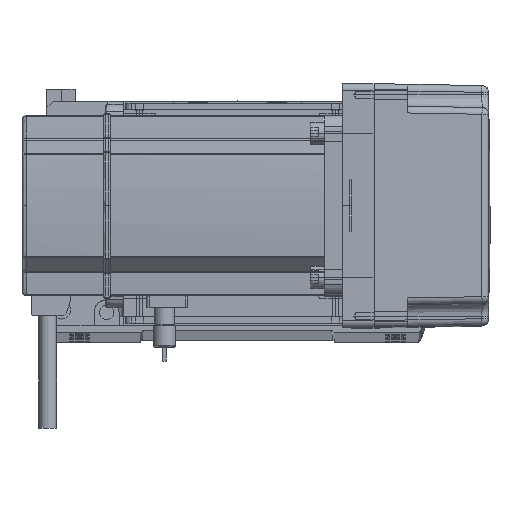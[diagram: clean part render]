
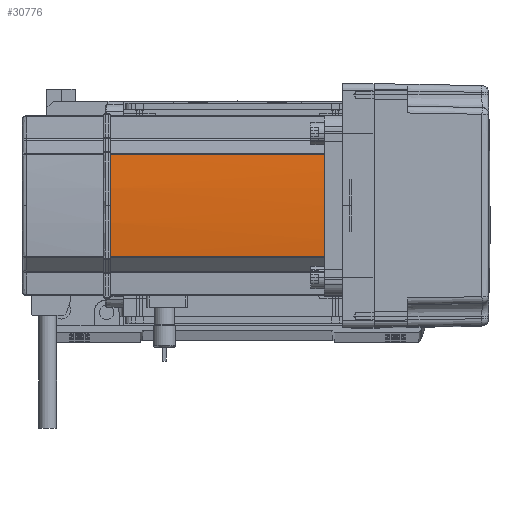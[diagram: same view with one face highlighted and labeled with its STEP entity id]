
A CAD part, top view. The second image highlights one B-rep face of the part: STEP entity #30776.
In plain terms, the highlighted cylindrical face has radius 270 mm (diameter 540 mm), a partial arc.
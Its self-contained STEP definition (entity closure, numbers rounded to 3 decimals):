
#972 = CIRCLE ( 'NONE', #32822, 270. ) ;
#1494 = ORIENTED_EDGE ( 'NONE', *, *, #14219, .T. ) ;
#2191 = LINE ( 'NONE', #57121, #59696 ) ;
#2561 = CARTESIAN_POINT ( 'NONE',  ( 230., 0., 134. ) ) ;
#5947 = ORIENTED_EDGE ( 'NONE', *, *, #63593, .T. ) ;
#6134 = DIRECTION ( 'NONE',  ( 1., 0., 0. ) ) ;
#6212 = DIRECTION ( 'NONE',  ( 0., 0., 1. ) ) ;
#12415 = DIRECTION ( 'NONE',  ( 0., 0., -1. ) ) ;
#13867 = CARTESIAN_POINT ( 'NONE',  ( 230., 0., 134. ) ) ;
#14219 = EDGE_CURVE ( 'NONE', #62748, #19654, #57485, .T. ) ;
#15255 = ORIENTED_EDGE ( 'NONE', *, *, #25344, .T. ) ;
#15613 = VERTEX_POINT ( 'NONE', #30137 ) ;
#18527 = DIRECTION ( 'NONE',  ( 0., 0., 1. ) ) ;
#19654 = VERTEX_POINT ( 'NONE', #44765 ) ;
#23441 = ORIENTED_EDGE ( 'NONE', *, *, #40996, .F. ) ;
#25344 = EDGE_CURVE ( 'NONE', #15613, #62748, #37601, .T. ) ;
#25448 = CYLINDRICAL_SURFACE ( 'NONE', #37854, 270. ) ;
#25825 = AXIS2_PLACEMENT_3D ( 'NONE', #13867, #29361, #63125 ) ;
#28134 = DIRECTION ( 'NONE',  ( 0., 0., -1. ) ) ;
#29361 = DIRECTION ( 'NONE',  ( 0., 0., -1. ) ) ;
#30137 = CARTESIAN_POINT ( 'NONE',  ( -39.042, -22.724, 134. ) ) ;
#30456 = AXIS2_PLACEMENT_3D ( 'NONE', #2561, #28134, #62329 ) ;
#30767 = CARTESIAN_POINT ( 'NONE',  ( 230., 0., 0. ) ) ;
#30776 = ADVANCED_FACE ( 'NONE', ( #54541 ), #25448, .T. ) ;
#32822 = AXIS2_PLACEMENT_3D ( 'NONE', #44787, #35402, #6134 ) ;
#35402 = DIRECTION ( 'NONE',  ( 0., 0., -1. ) ) ;
#36186 = VERTEX_POINT ( 'NONE', #55634 ) ;
#37601 = CIRCLE ( 'NONE', #30456, 270. ) ;
#37854 = AXIS2_PLACEMENT_3D ( 'NONE', #30767, #6212, #45513 ) ;
#40983 = CARTESIAN_POINT ( 'NONE',  ( -40., 0., 134. ) ) ;
#40996 = EDGE_CURVE ( 'NONE', #49005, #36186, #972, .T. ) ;
#41905 = VECTOR ( 'NONE', #12415, 1000. ) ;
#44765 = CARTESIAN_POINT ( 'NONE',  ( -39.042, 22.724, 134. ) ) ;
#44787 = CARTESIAN_POINT ( 'NONE',  ( 230., 0., 39. ) ) ;
#45513 = DIRECTION ( 'NONE',  ( 1., 0., 0. ) ) ;
#49005 = VERTEX_POINT ( 'NONE', #51718 ) ;
#51616 = EDGE_CURVE ( 'NONE', #49005, #15613, #2191, .T. ) ;
#51718 = CARTESIAN_POINT ( 'NONE',  ( -39.042, -22.724, 39. ) ) ;
#54541 = FACE_OUTER_BOUND ( 'NONE', #60027, .T. ) ;
#55634 = CARTESIAN_POINT ( 'NONE',  ( -39.042, 22.724, 39. ) ) ;
#57121 = CARTESIAN_POINT ( 'NONE',  ( -39.042, -22.724, 0. ) ) ;
#57155 = LINE ( 'NONE', #61065, #41905 ) ;
#57485 = CIRCLE ( 'NONE', #25825, 270. ) ;
#59538 = ORIENTED_EDGE ( 'NONE', *, *, #51616, .T. ) ;
#59696 = VECTOR ( 'NONE', #18527, 1000. ) ;
#60027 = EDGE_LOOP ( 'NONE', ( #15255, #1494, #5947, #23441, #59538 ) ) ;
#61065 = CARTESIAN_POINT ( 'NONE',  ( -39.042, 22.724, 0. ) ) ;
#62329 = DIRECTION ( 'NONE',  ( 1., 0., 0. ) ) ;
#62748 = VERTEX_POINT ( 'NONE', #40983 ) ;
#63125 = DIRECTION ( 'NONE',  ( 1., 0., 0. ) ) ;
#63593 = EDGE_CURVE ( 'NONE', #19654, #36186, #57155, .T. ) ;
